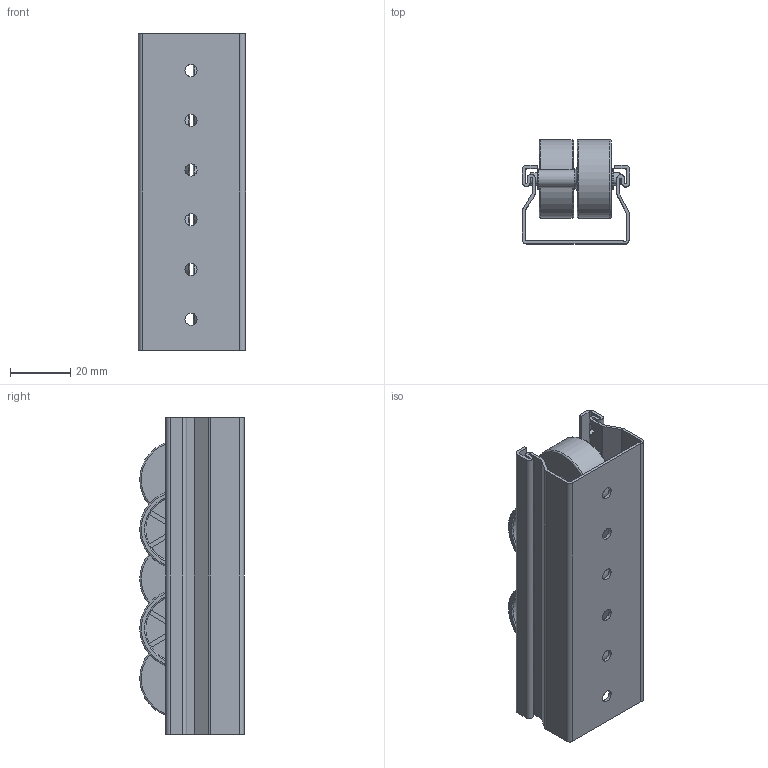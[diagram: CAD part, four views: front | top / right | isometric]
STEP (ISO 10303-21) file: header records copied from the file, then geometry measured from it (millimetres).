
FILE_DESCRIPTION(/* description */ ('STEP AP214'),/* implementation_level */ '2;1');
FILE_NAME(/* name */ '6XPH2691ESD.2000',/* time_stamp */ '2024-09-04T10:08:23+02:00',/* author */ ('License CC BY-ND 4.0'),/* organization */ ('CADENAS'),/* preprocessor_version */ 'ST-DEVELOPER v19.3',/* originating_system */ 'PARTsolutions',/* authorisation */ ' ');
FILE_SCHEMA (('AUTOMOTIVE_DESIGN {1 0 10303 214 3 1 1}'));
Length unit declared in the file: millimetre
Products named in the file (4): 6XPH2691ESD.2000; 6XPH2691ESD.2000-p; 6XPH2691ESD.2000-a; 6XPH2691ESD.2000-r
Assembly tree (11 placements, depth 2):
  6XPH2691ESD.2000
    6XPH2691ESD.2000-p
    6XPH2691ESD.2000-a  x5
    6XPH2691ESD.2000-r  x5
Bounding box: 35.65 x 34.69 x 105 mm (x, y, z)
Volume: 28367.6 mm3; surface area: 45370.2 mm2
Topology: 11 solids, 11 shells, 382 faces, 1027 edges, 675 vertices
Faces by surface type: plane 231, cylinder 106, torus 35, cone 10
Full cylindrical faces by diameter (mm): 4 x11, 4.2 x10, 6 x5, 7 x5, 22 x5, 26 x5
Entity records: 6787 total; most frequent: CARTESIAN_POINT 1558, ORIENTED_EDGE 1086, DIRECTION 1039, EDGE_CURVE 543, AXIS2_PLACEMENT_3D 388, VERTEX_POINT 373, LINE 263, VECTOR 263
